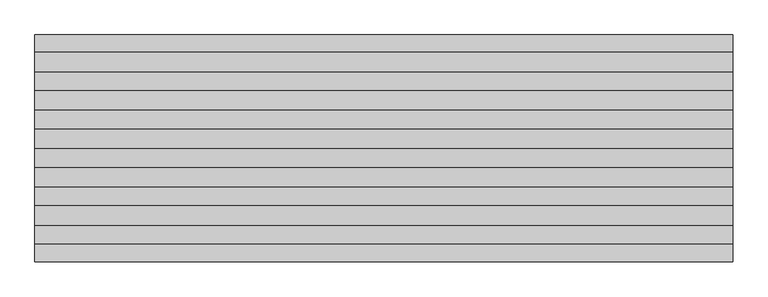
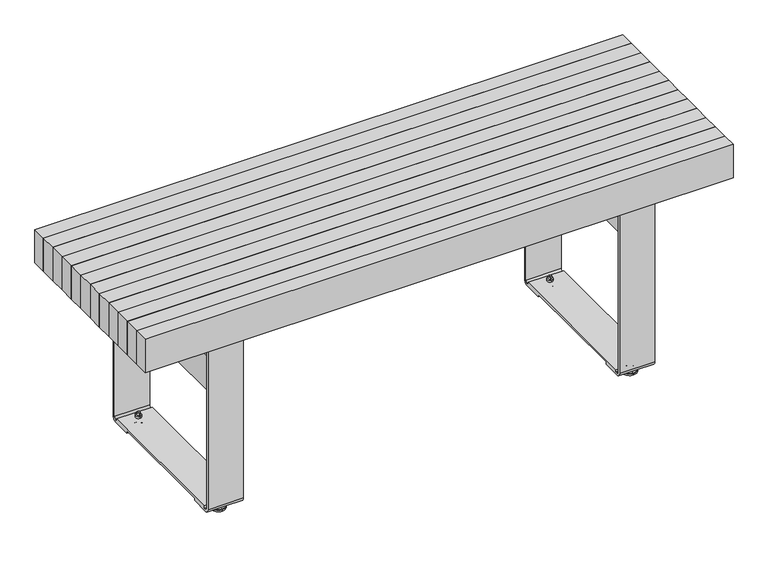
"""IFC4 building model written with IfcOpenShell, lengths in millimetres: furniture geometry, Roros Produkter - Femunden - Table - 34370 : Roros Produkter - Femunden - Table - 34370."""

import ifcopenshell
import ifcopenshell.guid

model = None  # the IFC model being written
_history = None  # IfcOwnerHistory: only IFC2X3 demands one
_inside = {}  # id of a spatial element -> (the spatial element, [elements in it])
_under = {}  # id of a project, library or spatial element -> (it, [spatial elements below it])
_declared = {}  # id of a project -> (the project, [libraries it declares])
_typed = {}  # id of a type object -> (the type object, [elements of that type])
_made_of = {}  # id of a material, layer set ... -> (it, [elements and type objects made of it])


def new_model(schema):
    """Start an empty IFC model of exactly this schema.

    Asked for "IFC4X3", IfcOpenShell would pick the latest addendum, in which some entities
    have other attributes; the version numbers below select the first issue.
    IFC2X3 requires an IfcOwnerHistory on every rooted entity: one is made here for all.
    """
    global model, _history
    if schema == "IFC4X3":
        model = ifcopenshell.file(schema_version=(4, 3, 0, 0))
    else:
        model = ifcopenshell.file(schema=schema)
    _inside.clear()
    _under.clear()
    _declared.clear()
    _typed.clear()
    _made_of.clear()
    _history = None
    if model.schema == "IFC2X3":
        org = make("IfcOrganization", Name="unknown")
        user = make(
            "IfcPersonAndOrganization",
            ThePerson=make("IfcPerson", FamilyName="unknown"),
            TheOrganization=org,
        )
        app = make(
            "IfcApplication",
            ApplicationDeveloper=org,
            Version="unknown",
            ApplicationFullName="unknown",
            ApplicationIdentifier="unknown",
        )
        _history = make(
            "IfcOwnerHistory",
            OwningUser=user,
            OwningApplication=app,
            ChangeAction="ADDED",
            CreationDate=0,
        )
    return model


def make(cls, **values):
    """One entity of the class cls with the attributes given. An attribute that is None is left unset."""
    return model.create_entity(
        cls, **{name: value for name, value in values.items() if value is not None}
    )


def rooted(cls, **values):
    """An entity with a GlobalId (a new one), such as an element, a storey or a relation."""
    return make(cls, GlobalId=ifcopenshell.guid.new(), OwnerHistory=_history, **values)


def si_unit(unit_type, name, prefix=None):
    """IfcSIUnit, for example si_unit("LENGTHUNIT", "METRE", prefix="MILLI")."""
    return make("IfcSIUnit", UnitType=unit_type, Prefix=prefix, Name=name)


def assignment(units):
    """IfcUnitAssignment: the units of a project."""
    return None if units is None else make("IfcUnitAssignment", Units=units)


def point(xyz):
    """IfcCartesianPoint."""
    return None if xyz is None else make("IfcCartesianPoint", Coordinates=xyz)


def direction(xyz):
    """IfcDirection."""
    return None if xyz is None else make("IfcDirection", DirectionRatios=xyz)


def frame(location, z_axis=None, x_axis=None):
    """IfcAxis2Placement3D, a coordinate frame: its origin and axes. An axis left out is left unset."""
    return make(
        "IfcAxis2Placement3D",
        Location=point(location),
        Axis=direction(z_axis),
        RefDirection=direction(x_axis),
    )


def frame_2d(location, x_axis=None):
    """IfcAxis2Placement2D, a coordinate frame in the plane: its origin and x axis."""
    return make(
        "IfcAxis2Placement2D", Location=point(location), RefDirection=direction(x_axis)
    )


def origin():
    """The frame at (0, 0, 0) with its axes left unset."""
    return frame((0.0, 0.0, 0.0))


def place(relative_to, where):
    """IfcLocalPlacement: puts the frame where relative to a parent placement (None: the world)."""
    return make(
        "IfcLocalPlacement", PlacementRelTo=relative_to, RelativePlacement=where
    )


def context(
    kind, dimensions, precision=None, world=None, true_north=None, identifier=None
):
    """IfcGeometricRepresentationContext, for example the 3D "Model" context."""
    return make(
        "IfcGeometricRepresentationContext",
        ContextIdentifier=identifier,
        ContextType=kind,
        CoordinateSpaceDimension=dimensions,
        Precision=precision,
        WorldCoordinateSystem=world,
        TrueNorth=true_north,
    )


def project(units=None, contexts=None):
    """IfcProject with its units and contexts."""
    return rooted(
        "IfcProject",
        Name="project",
        RepresentationContexts=contexts,
        UnitsInContext=assignment(units),
    )


def spatial(cls, under=None, at=None, **own):
    """A site, building, storey or space (cls), placed at a placement, below another one or the project."""
    s = rooted(cls, ObjectPlacement=at, **own)
    if under is not None:
        _under.setdefault(under.id(), (under, []))[1].append(s)
    return s


def polyline(points):
    """IfcPolyline through the points."""
    return make("IfcPolyline", Points=[point(p) for p in points])


def circle_curve(where, radius):
    """IfcCircle in the frame where."""
    return make("IfcCircle", Position=where, Radius=radius)


def ellipse_curve(where, semi_axis1, semi_axis2):
    """IfcEllipse in the frame where."""
    return make(
        "IfcEllipse", Position=where, SemiAxis1=semi_axis1, SemiAxis2=semi_axis2
    )


def trimmed(basis, trim1, trim2, sense, master):
    """IfcTrimmedCurve: the piece of a basis curve between two trims."""
    return make(
        "IfcTrimmedCurve",
        BasisCurve=basis,
        Trim1=trim1,
        Trim2=trim2,
        SenseAgreement=sense,
        MasterRepresentation=master,
    )


def segment(curve, same_sense, transition):
    """IfcCompositeCurveSegment."""
    return make(
        "IfcCompositeCurveSegment",
        Transition=transition,
        SameSense=same_sense,
        ParentCurve=curve,
    )


def composite_curve(segments, self_intersect=None):
    """IfcCompositeCurve: segments joined end to end."""
    return make("IfcCompositeCurve", Segments=segments, SelfIntersect=self_intersect)


def outline(outer, holes=None, kind="AREA"):
    """IfcArbitraryClosedProfileDef: a profile drawn as a closed curve; with holes, ...WithVoids."""
    if holes is None:
        return make("IfcArbitraryClosedProfileDef", ProfileType=kind, OuterCurve=outer)
    return make(
        "IfcArbitraryProfileDefWithVoids",
        ProfileType=kind,
        OuterCurve=outer,
        InnerCurves=holes,
    )


def extrude(swept, where, along, depth):
    """IfcExtrudedAreaSolid: the profile swept, set in the frame where, extruded along a direction by depth."""
    return make(
        "IfcExtrudedAreaSolid",
        SweptArea=swept,
        Position=where,
        ExtrudedDirection=direction(along),
        Depth=depth,
    )


def shape(context_of_items, identifier, shape_type, items):
    """IfcShapeRepresentation: the items that make up one representation, for example the "Body"."""
    return make(
        "IfcShapeRepresentation",
        ContextOfItems=context_of_items,
        RepresentationIdentifier=identifier,
        RepresentationType=shape_type,
        Items=items,
    )


def source(mapping_origin, context_of_items, identifier, shape_type, items):
    """IfcRepresentationMap: a shape defined once, which mapped items show again and again."""
    return make(
        "IfcRepresentationMap",
        MappingOrigin=mapping_origin,
        MappedRepresentation=shape(context_of_items, identifier, shape_type, items),
    )


def transform(
    local_origin,
    x_axis=None,
    y_axis=None,
    z_axis=None,
    scale=None,
    scale2=None,
    scale3=None,
    uniform=True,
):
    """IfcCartesianTransformationOperator3D, or its non-uniform kind. x_axis, y_axis, z_axis: its Axis1, 2, 3."""
    if uniform:
        return make(
            "IfcCartesianTransformationOperator3D",
            Axis1=direction(x_axis),
            Axis2=direction(y_axis),
            LocalOrigin=point(local_origin),
            Scale=scale,
            Axis3=direction(z_axis),
        )
    return make(
        "IfcCartesianTransformationOperator3DnonUniform",
        Axis1=direction(x_axis),
        Axis2=direction(y_axis),
        LocalOrigin=point(local_origin),
        Scale=scale,
        Axis3=direction(z_axis),
        Scale2=scale2,
        Scale3=scale3,
    )


def mapped(mapping_source, mapping_target):
    """IfcMappedItem: shows the shape of a source again, moved by a transform."""
    return make(
        "IfcMappedItem", MappingSource=mapping_source, MappingTarget=mapping_target
    )


def made_of(thing, what):
    """Note that an element or type object is made of a material, layer set ...; save() writes the relation."""
    if what is not None:
        _made_of.setdefault(what.id(), (what, []))[1].append(thing)
    return thing


def element(
    cls,
    number,
    at=None,
    inside=None,
    cuts=None,
    type_object=None,
    material=None,
    context=None,
    identifier="Body",
    shape_type=None,
    held_by="IfcProductDefinitionShape",
    body=None,
    shapes=None,
    **own,
):
    """One element of the class cls, such as IfcWall. Its Tag is "e" and its number.

    at: its placement. inside: the storey or other place that contains it. cuts: it is an
    opening in that element (IfcRelVoidsElement). A single representation is given by context,
    identifier, shape_type and body (its items); several are given by shapes. held_by: the class
    of the entity that holds the representations. save() writes the other relations.
    """
    e = rooted(cls, Tag="e%d" % number, ObjectPlacement=at, **own)
    if body is not None:
        shapes = [shape(context, identifier, shape_type, body)]
    if shapes is not None:
        e.Representation = make(held_by, Representations=shapes)
    if inside is not None:
        _inside.setdefault(inside.id(), (inside, []))[1].append(e)
    if cuts is not None:
        rooted(
            "IfcRelVoidsElement", RelatingBuildingElement=cuts, RelatedOpeningElement=e
        )
    if type_object is not None:
        _typed.setdefault(type_object.id(), (type_object, []))[1].append(e)
    return made_of(e, material)


def aggregate(whole, parts):
    """IfcRelAggregates: a whole, such as a stair, and the parts it consists of."""
    return rooted("IfcRelAggregates", RelatingObject=whole, RelatedObjects=parts)


def save(model, path):
    """Write the relations noted so far, then the file.

    IfcRelAggregates (storeys below a building ...), IfcRelContainedInSpatialStructure (elements
    in a storey), IfcRelDefinesByType, IfcRelAssociatesMaterial and IfcRelDeclares: one each for
    every whole, place, type object, material and project.
    """
    for whole, parts in _under.values():
        aggregate(whole, parts)
    for where, things in _inside.values():
        rooted(
            "IfcRelContainedInSpatialStructure",
            RelatedElements=things,
            RelatingStructure=where,
        )
    for kind, things in _typed.values():
        rooted("IfcRelDefinesByType", RelatedObjects=things, RelatingType=kind)
    for what, things in _made_of.values():
        rooted("IfcRelAssociatesMaterial", RelatedObjects=things, RelatingMaterial=what)
    for by, libraries in _declared.values():
        rooted("IfcRelDeclares", RelatingContext=by, RelatedDefinitions=libraries)
    model.write(path)


def plane_surface(at):
    """IfcPlane: the flat surface through the origin of the frame at, square to its z axis."""
    return make("IfcPlane", Position=at)


def cylinder_surface(at, radius):
    """IfcCylindricalSurface: all points at the distance radius from the z axis of the frame at."""
    return make("IfcCylindricalSurface", Position=at, Radius=radius)


def revolved_surface(curve, axis_point, axis_direction):
    """IfcSurfaceOfRevolution: the curve turned about the line through axis_point along axis_direction."""
    return make(
        "IfcSurfaceOfRevolution",
        SweptCurve=make("IfcArbitraryOpenProfileDef", ProfileType="CURVE", Curve=curve),
        AxisPosition=make("IfcAxis1Placement", Location=point(axis_point), Axis=direction(axis_direction)),
    )


def advanced_brep(points, edges, surfaces, faces):
    """IfcAdvancedBrep: a solid bounded by faces that lie on surfaces and meet in shared edges.

    An edge is (start, end): straight between two places in points (the first is 0);
    or (start, end, curve); or (start, end, curve, False) where it runs against its curve.
    A face is (place in surfaces, loops), or (place, loops, False) where it looks against
    its surface's normal. A loop lists edges by number (the first is 1), with a minus sign
    where the edge is run from its end to its start. The first loop is the outer one.
    """
    corners = [point(p) for p in points]
    vertices = [make("IfcVertexPoint", VertexGeometry=c) for c in corners]
    made = []
    for start, end, *more in edges:
        made.append(
            make(
                "IfcEdgeCurve",
                EdgeStart=vertices[start],
                EdgeEnd=vertices[end],
                EdgeGeometry=more[0] if more else make("IfcPolyline", Points=[corners[start], corners[end]]),
                SameSense=more[1] if len(more) > 1 else True,
            )
        )
    hull = []
    for where, loops, *sense in faces:
        bounds = []
        for j, loop in enumerate(loops):
            ring = [make("IfcOrientedEdge", EdgeElement=made[abs(k) - 1], Orientation=k > 0) for k in loop]
            bounds.append(
                make(
                    "IfcFaceOuterBound" if j == 0 else "IfcFaceBound",
                    Bound=make("IfcEdgeLoop", EdgeList=ring),
                    Orientation=True,
                )
            )
        hull.append(make("IfcAdvancedFace", Bounds=bounds, FaceSurface=surfaces[where], SameSense=sense[0] if sense else True))
    return make("IfcAdvancedBrep", Outer=make("IfcClosedShell", CfsFaces=hull))


def furniture_c40fb7c0(model_context):
    return source(origin(), model_context, "Body", "SolidModel", [
        extrude(outline(composite_curve([segment(trimmed(circle_curve(frame_2d((719.85, 261.5)), 5.5), [point((725.35, 261.5))], [point((719.85, 267.0))], True, "CARTESIAN"), True, "CONTINUOUS"), segment(polyline([(719.85, 267.0), (680.35, 267.0), (680.35, 272.0), (719.85, 272.0)]), True, "CONTINUOUS"), segment(trimmed(circle_curve(frame_2d((719.85, 261.5)), 10.5), [point((719.85, 272.0))], [point((730.35, 261.5))], False, "CARTESIAN"), True, "CONTINUOUS"), segment(polyline([(730.35, 261.5), (730.35, -260.5)]), True, "CONTINUOUS"), segment(trimmed(circle_curve(frame_2d((719.85, -260.5)), 10.5), [point((730.35, -260.5))], [point((719.85, -271.0))], False, "CARTESIAN"), True, "CONTINUOUS"), segment(polyline([(719.85, -271.0), (680.35, -271.0), (680.35, -266.0), (719.85, -266.0)]), True, "CONTINUOUS"), segment(trimmed(circle_curve(frame_2d((719.85, -260.5)), 5.5), [point((719.85, -266.0))], [point((725.35, -260.5))], True, "CARTESIAN"), True, "CONTINUOUS"), segment(polyline([(725.35, -260.5), (725.35, 261.5)]), True, "CONTINUOUS")], self_intersect=False)), frame((0.0, 0.0, 424.1), z_axis=(0.0, 0.0, 1.0), x_axis=(1.0, 0.0, 0.0)), (0.0, 0.0, 1.0), 120.0),
        extrude(outline(composite_curve([segment(polyline([(272.0, 744.2), (280.0, 744.2), (280.0, 40.2)]), True, "CONTINUOUS"), segment(trimmed(circle_curve(frame_2d((264.0, 40.2)), 16.0), [point((280.0, 40.2))], [point((264.0, 24.2))], False, "CARTESIAN"), True, "CONTINUOUS"), segment(polyline([(264.0, 24.2), (200.0, 24.2), (200.0, 32.2), (-200.0, 32.2), (-200.0, 24.2), (-264.0, 24.2)]), True, "CONTINUOUS"), segment(trimmed(circle_curve(frame_2d((-264.0, 40.2)), 16.0), [point((-264.0, 24.2))], [point((-280.0, 40.2))], False, "CARTESIAN"), True, "CONTINUOUS"), segment(polyline([(-280.0, 40.2), (-280.0, 744.2), (-272.0, 744.2), (-272.0, 40.2)]), True, "CONTINUOUS"), segment(trimmed(circle_curve(frame_2d((-264.0, 40.2)), 8.0), [point((-272.0, 40.2))], [point((-264.0, 32.2))], True, "CARTESIAN"), True, "CONTINUOUS"), segment(polyline([(-264.0, 32.2), (-258.5, 32.2), (-258.5, 40.2), (258.5, 40.2), (258.5, 32.2), (264.0, 32.2)]), True, "CONTINUOUS"), segment(trimmed(circle_curve(frame_2d((264.0, 40.2)), 8.0), [point((264.0, 32.2))], [point((272.0, 40.2))], True, "CARTESIAN"), True, "CONTINUOUS"), segment(polyline([(272.0, 40.2), (272.0, 744.2)]), True, "CONTINUOUS")], self_intersect=False)), frame((640.0, 0.0, 0.0), z_axis=(1.0, 0.0, 0.0), x_axis=(0.0, 1.0, 0.0)), (0.0, 0.0, 1.0), 120.0),
        advanced_brep(
        [(700.0, -230.0, 48.0), (700.0, -240.0, 48.0), (700.0, -244.5853719, 48.0), (700.0, -225.4146281, 48.0), (700.0, -230.0, 56.5), (700.0, -240.0, 56.5), (700.0, -235.0, 56.5), (700.0, -211.5, 0.0), (700.0, -258.5, 0.0), (700.0, -235.0, 0.0), (700.0, -211.5, 4.3619998), (700.0, -258.5, 4.3619998), (700.0, -212.4699239, 6.0763344), (700.0, -257.5300761, 6.0763344), (700.0, -219.0, 10.0), (700.0, -251.0, 10.0), (700.0, -226.1774181, 10.0), (700.0, -243.8225819, 10.0), (700.0, -226.1774181, 16.5), (700.0, -243.8225819, 16.5), (700.0, -225.1865973, 24.2), (700.0, -244.8134027, 24.2), (700.0, -244.8134027, 16.5), (700.0, -225.1865973, 16.5), (700.0, -230.0, 24.2), (700.0, -240.0, 24.2), (700.0, -230.0, 40.2), (700.0, -240.0, 40.2), (700.0, -225.4146281, 40.2), (700.0, -244.5853719, 40.2)],
        [
            (0, 1, circle_curve(frame((700.0, -235.0, 48.0), z_axis=(0.0, 0.0, -1.0), x_axis=(0.0, -1.0, 0.0)), 5.0)),
            (1, 2),
            (2, 3, circle_curve(frame((700.0, -235.0, 48.0), z_axis=(0.0, 0.0, 1.0), x_axis=(0.0, -1.0, 0.0)), 9.5853719)),
            (3, 0),
            (1, 0, circle_curve(frame((700.0, -235.0, 48.0), z_axis=(0.0, 0.0, -1.0), x_axis=(0.0, -1.0, 0.0)), 5.0)),
            (3, 2, circle_curve(frame((700.0, -235.0, 48.0), z_axis=(0.0, 0.0, 1.0), x_axis=(0.0, -1.0, 0.0)), 9.5853719)),
            (4, 5, circle_curve(frame((700.0, -235.0, 56.5), z_axis=(0.0, 0.0, -1.0), x_axis=(0.0, -1.0, 0.0)), 5.0)),
            (5, 1),
            (0, 4),
            (5, 4, circle_curve(frame((700.0, -235.0, 56.5), z_axis=(0.0, 0.0, -1.0), x_axis=(0.0, -1.0, 0.0)), 5.0)),
            (6, 5),
            (4, 6),
            (7, 8, circle_curve(frame((700.0, -235.0, 0.0), z_axis=(0.0, 0.0, -1.0), x_axis=(0.0, -1.0, 0.0)), 23.5)),
            (8, 9),
            (9, 7),
            (8, 7, circle_curve(frame((700.0, -235.0, 0.0), z_axis=(0.0, 0.0, -1.0), x_axis=(0.0, -1.0, 0.0)), 23.5)),
            (10, 11, circle_curve(frame((700.0, -235.0, 4.3619998), z_axis=(0.0, 0.0, -1.0), x_axis=(0.0, -1.0, 0.0)), 23.5)),
            (11, 8),
            (7, 10),
            (11, 10, circle_curve(frame((700.0, -235.0, 4.3619998), z_axis=(0.0, 0.0, -1.0), x_axis=(0.0, -1.0, 0.0)), 23.5)),
            (12, 13, circle_curve(frame((700.0, -235.0, 6.0763344), z_axis=(0.0, 0.0, -1.0), x_axis=(0.0, -1.0, 0.0)), 22.5300761)),
            (13, 11, circle_curve(frame((700.0, -256.5, 4.3619998), z_axis=(1.0, 0.0, 0.0), x_axis=(0.0, 1.0, 0.0)), 2.0)),
            (10, 12, circle_curve(frame((700.0, -213.5, 4.3619998), z_axis=(1.0, 0.0, 0.0), x_axis=(0.0, -1.0, 0.0)), 2.0)),
            (13, 12, circle_curve(frame((700.0, -235.0, 6.0763344), z_axis=(0.0, 0.0, -1.0), x_axis=(0.0, -1.0, 0.0)), 22.5300761)),
            (14, 15, circle_curve(frame((700.0, -235.0, 10.0), z_axis=(0.0, 0.0, -1.0), x_axis=(0.0, -1.0, 0.0)), 16.0)),
            (15, 13),
            (12, 14),
            (15, 14, circle_curve(frame((700.0, -235.0, 10.0), z_axis=(0.0, 0.0, -1.0), x_axis=(0.0, -1.0, 0.0)), 16.0)),
            (16, 17, circle_curve(frame((700.0, -235.0, 10.0), z_axis=(0.0, 0.0, -1.0), x_axis=(0.0, -1.0, 0.0)), 8.8225819)),
            (17, 15),
            (14, 16),
            (17, 16, circle_curve(frame((700.0, -235.0, 10.0), z_axis=(0.0, 0.0, -1.0), x_axis=(0.0, -1.0, 0.0)), 8.8225819)),
            (18, 19, circle_curve(frame((700.0, -235.0, 16.5), z_axis=(0.0, 0.0, -1.0), x_axis=(0.0, -1.0, 0.0)), 8.8225819)),
            (19, 17),
            (16, 18),
            (19, 18, circle_curve(frame((700.0, -235.0, 16.5), z_axis=(0.0, 0.0, -1.0), x_axis=(0.0, -1.0, 0.0)), 8.8225819)),
            (20, 21, circle_curve(frame((700.0, -235.0, 24.2), z_axis=(0.0, 0.0, -1.0), x_axis=(0.0, -1.0, 0.0)), 9.8134027)),
            (21, 22),
            (22, 23, circle_curve(frame((700.0, -235.0, 16.5), z_axis=(0.0, 0.0, 1.0), x_axis=(0.0, -1.0, 0.0)), 9.8134027)),
            (23, 20),
            (21, 20, circle_curve(frame((700.0, -235.0, 24.2), z_axis=(0.0, 0.0, -1.0), x_axis=(0.0, -1.0, 0.0)), 9.8134027)),
            (23, 22, circle_curve(frame((700.0, -235.0, 16.5), z_axis=(0.0, 0.0, 1.0), x_axis=(0.0, -1.0, 0.0)), 9.8134027)),
            (24, 25, circle_curve(frame((700.0, -235.0, 24.2), z_axis=(0.0, 0.0, -1.0), x_axis=(0.0, -1.0, 0.0)), 5.0)),
            (25, 21),
            (20, 24),
            (25, 24, circle_curve(frame((700.0, -235.0, 24.2), z_axis=(0.0, 0.0, -1.0), x_axis=(0.0, -1.0, 0.0)), 5.0)),
            (26, 27, circle_curve(frame((700.0, -235.0, 40.2), z_axis=(0.0, 0.0, -1.0), x_axis=(0.0, -1.0, 0.0)), 5.0)),
            (27, 25),
            (24, 26),
            (27, 26, circle_curve(frame((700.0, -235.0, 40.2), z_axis=(0.0, 0.0, -1.0), x_axis=(0.0, -1.0, 0.0)), 5.0)),
            (28, 29, circle_curve(frame((700.0, -235.0, 40.2), z_axis=(0.0, 0.0, -1.0), x_axis=(0.0, -1.0, 0.0)), 9.5853719)),
            (29, 27),
            (26, 28),
            (29, 28, circle_curve(frame((700.0, -235.0, 40.2), z_axis=(0.0, 0.0, -1.0), x_axis=(0.0, -1.0, 0.0)), 9.5853719)),
            (2, 29),
            (28, 3),
            (22, 19),
            (18, 23),
        ],
        [
            plane_surface(frame((700.0, -235.0, 48.0), z_axis=(0.0, 0.0, 1.0), x_axis=(0.0, -1.0, 0.0))),
            cylinder_surface(frame((700.0, -235.0, 48.0), z_axis=(0.0, 0.0, 1.0), x_axis=(0.0, -1.0, 0.0)), 5.0),
            plane_surface(frame((700.0, -235.0, 56.5), z_axis=(0.0, 0.0, 1.0), x_axis=(0.0, -1.0, 0.0))),
            plane_surface(frame((700.0, -235.0, 0.0), z_axis=(0.0, 0.0, -1.0), x_axis=(0.0, -1.0, 0.0))),
            cylinder_surface(frame((700.0, -235.0, 48.0), z_axis=(0.0, 0.0, 1.0), x_axis=(0.0, -1.0, 0.0)), 23.5),
            revolved_surface(trimmed(ellipse_curve(frame((700.0, -256.5, 4.3619998), z_axis=(-1.0, 0.0, 0.0), x_axis=(0.0, 1.0, 0.0)), 2.0, 2.0), [point((700.0, -258.5, 4.3619998))], [point((700.0, -257.5300761, 6.0763344))], True, "CARTESIAN"), (700.0, -235.0, 48.0), (0.0, 0.0, 1.0)),
            revolved_surface(polyline([(700.0, -257.5300761, 6.0763344), (700.0, -251.0, 10.0)]), (700.0, -235.0, 48.0), (0.0, 0.0, 1.0)),
            plane_surface(frame((700.0, -235.0, 10.0), z_axis=(0.0, 0.0, 1.0), x_axis=(0.0, -1.0, 0.0))),
            cylinder_surface(frame((700.0, -235.0, 48.0), z_axis=(0.0, 0.0, 1.0), x_axis=(0.0, -1.0, 0.0)), 8.8225819),
            cylinder_surface(frame((700.0, -235.0, 48.0), z_axis=(0.0, 0.0, 1.0), x_axis=(0.0, -1.0, 0.0)), 9.8134027),
            plane_surface(frame((700.0, -235.0, 24.2), z_axis=(0.0, 0.0, 1.0), x_axis=(0.0, -1.0, 0.0))),
            plane_surface(frame((700.0, -235.0, 40.2), z_axis=(0.0, 0.0, -1.0), x_axis=(0.0, -1.0, 0.0))),
            cylinder_surface(frame((700.0, -235.0, 48.0), z_axis=(0.0, 0.0, 1.0), x_axis=(0.0, -1.0, 0.0)), 9.5853719),
            plane_surface(frame((700.0, -235.0, 16.5), z_axis=(0.0, 0.0, -1.0), x_axis=(0.0, -1.0, 0.0))),
        ],
        [
            (0, [[1, 2, 3, 4]]),
            (0, [[5, -4, 6, -2]]),
            (1, [[7, 8, -1, 9]]),
            (1, [[10, -9, -5, -8]]),
            (2, [[11, -7, 12]]),
            (2, [[-12, -10, -11]]),
            (3, [[13, 14, 15]]),
            (3, [[16, -15, -14]]),
            (4, [[17, 18, -13, 19]]),
            (4, [[20, -19, -16, -18]]),
            (5, [[21, 22, -17, 23]]),
            (5, [[24, -23, -20, -22]]),
            (6, [[25, 26, -21, 27]]),
            (6, [[28, -27, -24, -26]]),
            (7, [[29, 30, -25, 31]]),
            (7, [[32, -31, -28, -30]]),
            (8, [[33, 34, -29, 35]]),
            (8, [[36, -35, -32, -34]]),
            (9, [[37, 38, 39, 40]]),
            (9, [[41, -40, 42, -38]]),
            (10, [[43, 44, -37, 45]]),
            (10, [[46, -45, -41, -44]]),
            (1, [[47, 48, -43, 49]]),
            (1, [[50, -49, -46, -48]]),
            (11, [[51, 52, -47, 53]]),
            (11, [[54, -53, -50, -52]]),
            (12, [[-3, 55, -51, 56]]),
            (12, [[-6, -56, -54, -55]]),
            (13, [[-39, 57, -33, 58]]),
            (13, [[-42, -58, -36, -57]]),
        ],
    ),
        advanced_brep(
        [(700.0, 225.4146281, 48.0), (700.0, 244.5853719, 48.0), (700.0, 240.0, 48.0), (700.0, 230.0, 48.0), (700.0, 240.0, 56.5), (700.0, 230.0, 56.5), (700.0, 235.0, 56.5), (700.0, 235.0, 0.0), (700.0, 258.5, 0.0), (700.0, 211.5, 0.0), (700.0, 258.5, 4.3619998), (700.0, 211.5, 4.3619998), (700.0, 257.5300761, 6.0763344), (700.0, 212.4699239, 6.0763344), (700.0, 251.0, 10.0), (700.0, 219.0, 10.0), (700.0, 243.8225819, 10.0), (700.0, 226.1774181, 10.0), (700.0, 243.8225819, 16.5), (700.0, 226.1774181, 16.5), (700.0, 225.1865973, 16.5), (700.0, 244.8134027, 16.5), (700.0, 244.8134027, 24.2), (700.0, 225.1865973, 24.2), (700.0, 240.0, 24.2), (700.0, 230.0, 24.2), (700.0, 240.0, 40.2), (700.0, 230.0, 40.2), (700.0, 244.5853719, 40.2), (700.0, 225.4146281, 40.2)],
        [
            (0, 1, circle_curve(frame((700.0, 235.0, 48.0), z_axis=(0.0, 0.0, 1.0), x_axis=(0.0, 1.0, 0.0)), 9.5853719)),
            (1, 2),
            (2, 3, circle_curve(frame((700.0, 235.0, 48.0), z_axis=(0.0, 0.0, -1.0), x_axis=(0.0, 1.0, 0.0)), 5.0)),
            (3, 0),
            (1, 0, circle_curve(frame((700.0, 235.0, 48.0), z_axis=(0.0, 0.0, 1.0), x_axis=(0.0, 1.0, 0.0)), 9.5853719)),
            (3, 2, circle_curve(frame((700.0, 235.0, 48.0), z_axis=(0.0, 0.0, -1.0), x_axis=(0.0, 1.0, 0.0)), 5.0)),
            (2, 4),
            (4, 5, circle_curve(frame((700.0, 235.0, 56.5), z_axis=(0.0, 0.0, -1.0), x_axis=(0.0, 1.0, 0.0)), 5.0)),
            (5, 3),
            (5, 4, circle_curve(frame((700.0, 235.0, 56.5), z_axis=(0.0, 0.0, -1.0), x_axis=(0.0, 1.0, 0.0)), 5.0)),
            (4, 6),
            (6, 5),
            (7, 8),
            (8, 9, circle_curve(frame((700.0, 235.0, 0.0), z_axis=(0.0, 0.0, -1.0), x_axis=(0.0, 1.0, 0.0)), 23.5)),
            (9, 7),
            (9, 8, circle_curve(frame((700.0, 235.0, 0.0), z_axis=(0.0, 0.0, -1.0), x_axis=(0.0, 1.0, 0.0)), 23.5)),
            (8, 10),
            (10, 11, circle_curve(frame((700.0, 235.0, 4.3619998), z_axis=(0.0, 0.0, -1.0), x_axis=(0.0, 1.0, 0.0)), 23.5)),
            (11, 9),
            (11, 10, circle_curve(frame((700.0, 235.0, 4.3619998), z_axis=(0.0, 0.0, -1.0), x_axis=(0.0, 1.0, 0.0)), 23.5)),
            (10, 12, circle_curve(frame((700.0, 256.5, 4.3619998), z_axis=(1.0, 0.0, 0.0), x_axis=(0.0, -1.0, 0.0)), 2.0)),
            (12, 13, circle_curve(frame((700.0, 235.0, 6.0763344), z_axis=(0.0, 0.0, -1.0), x_axis=(0.0, 1.0, 0.0)), 22.5300761)),
            (13, 11, circle_curve(frame((700.0, 213.5, 4.3619998), z_axis=(1.0, 0.0, 0.0), x_axis=(0.0, 1.0, 0.0)), 2.0)),
            (13, 12, circle_curve(frame((700.0, 235.0, 6.0763344), z_axis=(0.0, 0.0, -1.0), x_axis=(0.0, 1.0, 0.0)), 22.5300761)),
            (12, 14),
            (14, 15, circle_curve(frame((700.0, 235.0, 10.0), z_axis=(0.0, 0.0, -1.0), x_axis=(0.0, 1.0, 0.0)), 16.0)),
            (15, 13),
            (15, 14, circle_curve(frame((700.0, 235.0, 10.0), z_axis=(0.0, 0.0, -1.0), x_axis=(0.0, 1.0, 0.0)), 16.0)),
            (14, 16),
            (16, 17, circle_curve(frame((700.0, 235.0, 10.0), z_axis=(0.0, 0.0, -1.0), x_axis=(0.0, 1.0, 0.0)), 8.8225819)),
            (17, 15),
            (17, 16, circle_curve(frame((700.0, 235.0, 10.0), z_axis=(0.0, 0.0, -1.0), x_axis=(0.0, 1.0, 0.0)), 8.8225819)),
            (16, 18),
            (18, 19, circle_curve(frame((700.0, 235.0, 16.5), z_axis=(0.0, 0.0, -1.0), x_axis=(0.0, 1.0, 0.0)), 8.8225819)),
            (19, 17),
            (19, 18, circle_curve(frame((700.0, 235.0, 16.5), z_axis=(0.0, 0.0, -1.0), x_axis=(0.0, 1.0, 0.0)), 8.8225819)),
            (20, 21, circle_curve(frame((700.0, 235.0, 16.5), z_axis=(0.0, 0.0, 1.0), x_axis=(0.0, 1.0, 0.0)), 9.8134027)),
            (21, 22),
            (22, 23, circle_curve(frame((700.0, 235.0, 24.2), z_axis=(0.0, 0.0, -1.0), x_axis=(0.0, 1.0, 0.0)), 9.8134027)),
            (23, 20),
            (21, 20, circle_curve(frame((700.0, 235.0, 16.5), z_axis=(0.0, 0.0, 1.0), x_axis=(0.0, 1.0, 0.0)), 9.8134027)),
            (23, 22, circle_curve(frame((700.0, 235.0, 24.2), z_axis=(0.0, 0.0, -1.0), x_axis=(0.0, 1.0, 0.0)), 9.8134027)),
            (22, 24),
            (24, 25, circle_curve(frame((700.0, 235.0, 24.2), z_axis=(0.0, 0.0, -1.0), x_axis=(0.0, 1.0, 0.0)), 5.0)),
            (25, 23),
            (25, 24, circle_curve(frame((700.0, 235.0, 24.2), z_axis=(0.0, 0.0, -1.0), x_axis=(0.0, 1.0, 0.0)), 5.0)),
            (24, 26),
            (26, 27, circle_curve(frame((700.0, 235.0, 40.2), z_axis=(0.0, 0.0, -1.0), x_axis=(0.0, 1.0, 0.0)), 5.0)),
            (27, 25),
            (27, 26, circle_curve(frame((700.0, 235.0, 40.2), z_axis=(0.0, 0.0, -1.0), x_axis=(0.0, 1.0, 0.0)), 5.0)),
            (26, 28),
            (28, 29, circle_curve(frame((700.0, 235.0, 40.2), z_axis=(0.0, 0.0, -1.0), x_axis=(0.0, 1.0, 0.0)), 9.5853719)),
            (29, 27),
            (29, 28, circle_curve(frame((700.0, 235.0, 40.2), z_axis=(0.0, 0.0, -1.0), x_axis=(0.0, 1.0, 0.0)), 9.5853719)),
            (28, 1),
            (0, 29),
            (18, 21),
            (20, 19),
        ],
        [
            plane_surface(frame((700.0, 235.0, 48.0), z_axis=(0.0, 0.0, 1.0), x_axis=(0.0, 1.0, 0.0))),
            cylinder_surface(frame((700.0, 235.0, 48.0), z_axis=(0.0, 0.0, -1.0), x_axis=(0.0, 1.0, 0.0)), 5.0),
            plane_surface(frame((700.0, 235.0, 56.5), z_axis=(0.0, 0.0, 1.0), x_axis=(0.0, 1.0, 0.0))),
            plane_surface(frame((700.0, 235.0, 0.0), z_axis=(0.0, 0.0, -1.0), x_axis=(0.0, 1.0, 0.0))),
            cylinder_surface(frame((700.0, 235.0, 48.0), z_axis=(0.0, 0.0, -1.0), x_axis=(0.0, 1.0, 0.0)), 23.5),
            revolved_surface(trimmed(ellipse_curve(frame((700.0, 256.5, 4.3619998), z_axis=(-1.0, 0.0, 0.0), x_axis=(0.0, -1.0, 0.0)), 2.0, 2.0), [point((700.0, 257.5300761, 6.0763344))], [point((700.0, 258.5, 4.3619998))], True, "CARTESIAN"), (700.0, 235.0, 48.0), (0.0, 0.0, -1.0)),
            revolved_surface(polyline([(700.0, 251.0, 10.0), (700.0, 257.5300761, 6.0763344)]), (700.0, 235.0, 48.0), (0.0, 0.0, -1.0)),
            plane_surface(frame((700.0, 235.0, 10.0), z_axis=(0.0, 0.0, 1.0), x_axis=(0.0, 1.0, 0.0))),
            cylinder_surface(frame((700.0, 235.0, 48.0), z_axis=(0.0, 0.0, -1.0), x_axis=(0.0, 1.0, 0.0)), 8.8225819),
            cylinder_surface(frame((700.0, 235.0, 48.0), z_axis=(0.0, 0.0, -1.0), x_axis=(0.0, 1.0, 0.0)), 9.8134027),
            plane_surface(frame((700.0, 235.0, 24.2), z_axis=(0.0, 0.0, 1.0), x_axis=(0.0, 1.0, 0.0))),
            plane_surface(frame((700.0, 235.0, 40.2), z_axis=(0.0, 0.0, -1.0), x_axis=(0.0, 1.0, 0.0))),
            cylinder_surface(frame((700.0, 235.0, 48.0), z_axis=(0.0, 0.0, -1.0), x_axis=(0.0, 1.0, 0.0)), 9.5853719),
            plane_surface(frame((700.0, 235.0, 16.5), z_axis=(0.0, 0.0, -1.0), x_axis=(0.0, 1.0, 0.0))),
        ],
        [
            (0, [[1, 2, 3, 4]]),
            (0, [[5, -4, 6, -2]]),
            (1, [[-3, 7, 8, 9]]),
            (1, [[-6, -9, 10, -7]]),
            (2, [[-8, 11, 12]]),
            (2, [[-10, -12, -11]]),
            (3, [[13, 14, 15]]),
            (3, [[-15, 16, -13]]),
            (4, [[-14, 17, 18, 19]]),
            (4, [[-16, -19, 20, -17]]),
            (5, [[-18, 21, 22, 23]]),
            (5, [[-20, -23, 24, -21]]),
            (6, [[-22, 25, 26, 27]]),
            (6, [[-24, -27, 28, -25]]),
            (7, [[-26, 29, 30, 31]]),
            (7, [[-28, -31, 32, -29]]),
            (8, [[-30, 33, 34, 35]]),
            (8, [[-32, -35, 36, -33]]),
            (9, [[37, 38, 39, 40]]),
            (9, [[41, -40, 42, -38]]),
            (10, [[-39, 43, 44, 45]]),
            (10, [[-42, -45, 46, -43]]),
            (1, [[-44, 47, 48, 49]]),
            (1, [[-46, -49, 50, -47]]),
            (11, [[-48, 51, 52, 53]]),
            (11, [[-50, -53, 54, -51]]),
            (12, [[-52, 55, -1, 56]]),
            (12, [[-54, -56, -5, -55]]),
            (13, [[-34, 57, -37, 58]]),
            (13, [[-36, -58, -41, -57]]),
        ],
    ),
        advanced_brep(
        [(-700.0, -225.4146281, 48.0), (-700.0, -244.5853719, 48.0), (-700.0, -240.0, 48.0), (-700.0, -230.0, 48.0), (-700.0, -240.0, 56.5), (-700.0, -230.0, 56.5), (-700.0, -235.0, 56.5), (-700.0, -235.0, 0.0), (-700.0, -258.5, 0.0), (-700.0, -211.5, 0.0), (-700.0, -258.5, 4.3619998), (-700.0, -211.5, 4.3619998), (-700.0, -257.5300761, 6.0763344), (-700.0, -212.4699239, 6.0763344), (-700.0, -251.0, 10.0), (-700.0, -219.0, 10.0), (-700.0, -243.8225819, 10.0), (-700.0, -226.1774181, 10.0), (-700.0, -243.8225819, 16.5), (-700.0, -226.1774181, 16.5), (-700.0, -225.1865973, 16.5), (-700.0, -244.8134027, 16.5), (-700.0, -244.8134027, 24.2), (-700.0, -225.1865973, 24.2), (-700.0, -240.0, 24.2), (-700.0, -230.0, 24.2), (-700.0, -240.0, 40.2), (-700.0, -230.0, 40.2), (-700.0, -244.5853719, 40.2), (-700.0, -225.4146281, 40.2)],
        [
            (0, 1, circle_curve(frame((-700.0, -235.0, 48.0), z_axis=(0.0, 0.0, 1.0), x_axis=(0.0, -1.0, 0.0)), 9.5853719)),
            (1, 2),
            (2, 3, circle_curve(frame((-700.0, -235.0, 48.0), z_axis=(0.0, 0.0, -1.0), x_axis=(0.0, -1.0, 0.0)), 5.0)),
            (3, 0),
            (1, 0, circle_curve(frame((-700.0, -235.0, 48.0), z_axis=(0.0, 0.0, 1.0), x_axis=(0.0, -1.0, 0.0)), 9.5853719)),
            (3, 2, circle_curve(frame((-700.0, -235.0, 48.0), z_axis=(0.0, 0.0, -1.0), x_axis=(0.0, -1.0, 0.0)), 5.0)),
            (2, 4),
            (4, 5, circle_curve(frame((-700.0, -235.0, 56.5), z_axis=(0.0, 0.0, -1.0), x_axis=(0.0, -1.0, 0.0)), 5.0)),
            (5, 3),
            (5, 4, circle_curve(frame((-700.0, -235.0, 56.5), z_axis=(0.0, 0.0, -1.0), x_axis=(0.0, -1.0, 0.0)), 5.0)),
            (4, 6),
            (6, 5),
            (7, 8),
            (8, 9, circle_curve(frame((-700.0, -235.0, 0.0), z_axis=(0.0, 0.0, -1.0), x_axis=(0.0, -1.0, 0.0)), 23.5)),
            (9, 7),
            (9, 8, circle_curve(frame((-700.0, -235.0, 0.0), z_axis=(0.0, 0.0, -1.0), x_axis=(0.0, -1.0, 0.0)), 23.5)),
            (8, 10),
            (10, 11, circle_curve(frame((-700.0, -235.0, 4.3619998), z_axis=(0.0, 0.0, -1.0), x_axis=(0.0, -1.0, 0.0)), 23.5)),
            (11, 9),
            (11, 10, circle_curve(frame((-700.0, -235.0, 4.3619998), z_axis=(0.0, 0.0, -1.0), x_axis=(0.0, -1.0, 0.0)), 23.5)),
            (10, 12, circle_curve(frame((-700.0, -256.5, 4.3619998), z_axis=(-1.0, 0.0, 0.0), x_axis=(0.0, 1.0, 0.0)), 2.0)),
            (12, 13, circle_curve(frame((-700.0, -235.0, 6.0763344), z_axis=(0.0, 0.0, -1.0), x_axis=(0.0, -1.0, 0.0)), 22.5300761)),
            (13, 11, circle_curve(frame((-700.0, -213.5, 4.3619998), z_axis=(-1.0, 0.0, 0.0), x_axis=(0.0, -1.0, 0.0)), 2.0)),
            (13, 12, circle_curve(frame((-700.0, -235.0, 6.0763344), z_axis=(0.0, 0.0, -1.0), x_axis=(0.0, -1.0, 0.0)), 22.5300761)),
            (12, 14),
            (14, 15, circle_curve(frame((-700.0, -235.0, 10.0), z_axis=(0.0, 0.0, -1.0), x_axis=(0.0, -1.0, 0.0)), 16.0)),
            (15, 13),
            (15, 14, circle_curve(frame((-700.0, -235.0, 10.0), z_axis=(0.0, 0.0, -1.0), x_axis=(0.0, -1.0, 0.0)), 16.0)),
            (14, 16),
            (16, 17, circle_curve(frame((-700.0, -235.0, 10.0), z_axis=(0.0, 0.0, -1.0), x_axis=(0.0, -1.0, 0.0)), 8.8225819)),
            (17, 15),
            (17, 16, circle_curve(frame((-700.0, -235.0, 10.0), z_axis=(0.0, 0.0, -1.0), x_axis=(0.0, -1.0, 0.0)), 8.8225819)),
            (16, 18),
            (18, 19, circle_curve(frame((-700.0, -235.0, 16.5), z_axis=(0.0, 0.0, -1.0), x_axis=(0.0, -1.0, 0.0)), 8.8225819)),
            (19, 17),
            (19, 18, circle_curve(frame((-700.0, -235.0, 16.5), z_axis=(0.0, 0.0, -1.0), x_axis=(0.0, -1.0, 0.0)), 8.8225819)),
            (20, 21, circle_curve(frame((-700.0, -235.0, 16.5), z_axis=(0.0, 0.0, 1.0), x_axis=(0.0, -1.0, 0.0)), 9.8134027)),
            (21, 22),
            (22, 23, circle_curve(frame((-700.0, -235.0, 24.2), z_axis=(0.0, 0.0, -1.0), x_axis=(0.0, -1.0, 0.0)), 9.8134027)),
            (23, 20),
            (21, 20, circle_curve(frame((-700.0, -235.0, 16.5), z_axis=(0.0, 0.0, 1.0), x_axis=(0.0, -1.0, 0.0)), 9.8134027)),
            (23, 22, circle_curve(frame((-700.0, -235.0, 24.2), z_axis=(0.0, 0.0, -1.0), x_axis=(0.0, -1.0, 0.0)), 9.8134027)),
            (22, 24),
            (24, 25, circle_curve(frame((-700.0, -235.0, 24.2), z_axis=(0.0, 0.0, -1.0), x_axis=(0.0, -1.0, 0.0)), 5.0)),
            (25, 23),
            (25, 24, circle_curve(frame((-700.0, -235.0, 24.2), z_axis=(0.0, 0.0, -1.0), x_axis=(0.0, -1.0, 0.0)), 5.0)),
            (24, 26),
            (26, 27, circle_curve(frame((-700.0, -235.0, 40.2), z_axis=(0.0, 0.0, -1.0), x_axis=(0.0, -1.0, 0.0)), 5.0)),
            (27, 25),
            (27, 26, circle_curve(frame((-700.0, -235.0, 40.2), z_axis=(0.0, 0.0, -1.0), x_axis=(0.0, -1.0, 0.0)), 5.0)),
            (26, 28),
            (28, 29, circle_curve(frame((-700.0, -235.0, 40.2), z_axis=(0.0, 0.0, -1.0), x_axis=(0.0, -1.0, 0.0)), 9.5853719)),
            (29, 27),
            (29, 28, circle_curve(frame((-700.0, -235.0, 40.2), z_axis=(0.0, 0.0, -1.0), x_axis=(0.0, -1.0, 0.0)), 9.5853719)),
            (28, 1),
            (0, 29),
            (18, 21),
            (20, 19),
        ],
        [
            plane_surface(frame((-700.0, -235.0, 48.0), z_axis=(0.0, 0.0, 1.0), x_axis=(0.0, -1.0, 0.0))),
            cylinder_surface(frame((-700.0, -235.0, 48.0), z_axis=(0.0, 0.0, -1.0), x_axis=(0.0, -1.0, 0.0)), 5.0),
            plane_surface(frame((-700.0, -235.0, 56.5), z_axis=(0.0, 0.0, 1.0), x_axis=(0.0, -1.0, 0.0))),
            plane_surface(frame((-700.0, -235.0, 0.0), z_axis=(0.0, 0.0, -1.0), x_axis=(0.0, -1.0, 0.0))),
            cylinder_surface(frame((-700.0, -235.0, 48.0), z_axis=(0.0, 0.0, -1.0), x_axis=(0.0, -1.0, 0.0)), 23.5),
            revolved_surface(trimmed(ellipse_curve(frame((-700.0, -256.5, 4.3619998), z_axis=(1.0, 0.0, 0.0), x_axis=(0.0, 1.0, 0.0)), 2.0, 2.0), [point((-700.0, -257.5300761, 6.0763344))], [point((-700.0, -258.5, 4.3619998))], True, "CARTESIAN"), (-700.0, -235.0, 48.0), (0.0, 0.0, -1.0)),
            revolved_surface(polyline([(-700.0, -251.0, 10.0), (-700.0, -257.5300761, 6.0763344)]), (-700.0, -235.0, 48.0), (0.0, 0.0, -1.0)),
            plane_surface(frame((-700.0, -235.0, 10.0), z_axis=(0.0, 0.0, 1.0), x_axis=(0.0, -1.0, 0.0))),
            cylinder_surface(frame((-700.0, -235.0, 48.0), z_axis=(0.0, 0.0, -1.0), x_axis=(0.0, -1.0, 0.0)), 8.8225819),
            cylinder_surface(frame((-700.0, -235.0, 48.0), z_axis=(0.0, 0.0, -1.0), x_axis=(0.0, -1.0, 0.0)), 9.8134027),
            plane_surface(frame((-700.0, -235.0, 24.2), z_axis=(0.0, 0.0, 1.0), x_axis=(0.0, -1.0, 0.0))),
            plane_surface(frame((-700.0, -235.0, 40.2), z_axis=(0.0, 0.0, -1.0), x_axis=(0.0, -1.0, 0.0))),
            cylinder_surface(frame((-700.0, -235.0, 48.0), z_axis=(0.0, 0.0, -1.0), x_axis=(0.0, -1.0, 0.0)), 9.5853719),
            plane_surface(frame((-700.0, -235.0, 16.5), z_axis=(0.0, 0.0, -1.0), x_axis=(0.0, -1.0, 0.0))),
        ],
        [
            (0, [[1, 2, 3, 4]]),
            (0, [[5, -4, 6, -2]]),
            (1, [[-3, 7, 8, 9]]),
            (1, [[-6, -9, 10, -7]]),
            (2, [[-8, 11, 12]]),
            (2, [[-10, -12, -11]]),
            (3, [[13, 14, 15]]),
            (3, [[-15, 16, -13]]),
            (4, [[-14, 17, 18, 19]]),
            (4, [[-16, -19, 20, -17]]),
            (5, [[-18, 21, 22, 23]]),
            (5, [[-20, -23, 24, -21]]),
            (6, [[-22, 25, 26, 27]]),
            (6, [[-24, -27, 28, -25]]),
            (7, [[-26, 29, 30, 31]]),
            (7, [[-28, -31, 32, -29]]),
            (8, [[-30, 33, 34, 35]]),
            (8, [[-32, -35, 36, -33]]),
            (9, [[37, 38, 39, 40]]),
            (9, [[41, -40, 42, -38]]),
            (10, [[-39, 43, 44, 45]]),
            (10, [[-42, -45, 46, -43]]),
            (1, [[-44, 47, 48, 49]]),
            (1, [[-46, -49, 50, -47]]),
            (11, [[-48, 51, 52, 53]]),
            (11, [[-50, -53, 54, -51]]),
            (12, [[-52, 55, -1, 56]]),
            (12, [[-54, -56, -5, -55]]),
            (13, [[-34, 57, -37, 58]]),
            (13, [[-36, -58, -41, -57]]),
        ],
    ),
        extrude(outline(polyline([(1000.0, 165.0), (1000.0, 110.0), (-1000.0, 110.0), (-1000.0, 165.0), (1000.0, 165.0)])), frame((0.0, 0.0, 644.2), z_axis=(0.0, 0.0, 1.0), x_axis=(1.0, 0.0, 0.0)), (0.0, 0.0, 1.0), 120.0),
        extrude(outline(polyline([(1000.0, 55.0), (1000.0, 0.0), (-1000.0, 0.0), (-1000.0, 55.0), (1000.0, 55.0)])), frame((0.0, 0.0, 644.2), z_axis=(0.0, 0.0, 1.0), x_axis=(1.0, 0.0, 0.0)), (0.0, 0.0, 1.0), 120.0),
        extrude(outline(polyline([(1000.0, -55.0), (1000.0, -110.0), (-1000.0, -110.0), (-1000.0, -55.0), (1000.0, -55.0)])), frame((0.0, 0.0, 644.2), z_axis=(0.0, 0.0, 1.0), x_axis=(1.0, 0.0, 0.0)), (0.0, 0.0, 1.0), 120.0),
        extrude(outline(polyline([(1000.0, -165.0), (1000.0, -220.0), (-1000.0, -220.0), (-1000.0, -165.0), (1000.0, -165.0)])), frame((0.0, 0.0, 644.2), z_axis=(0.0, 0.0, 1.0), x_axis=(1.0, 0.0, 0.0)), (0.0, 0.0, 1.0), 120.0),
        extrude(outline(polyline([(1000.0, -275.0), (1000.0, -325.0), (-1000.0, -325.0), (-1000.0, -275.0), (1000.0, -275.0)])), frame((0.0, 0.0, 644.2), z_axis=(0.0, 0.0, 1.0), x_axis=(1.0, 0.0, 0.0)), (0.0, 0.0, 1.0), 120.0),
        extrude(outline(polyline([(1000.0, 275.0), (1000.0, 220.0), (-1000.0, 220.0), (-1000.0, 275.0), (1000.0, 275.0)])), frame((0.0, 0.0, 644.2), z_axis=(0.0, 0.0, 1.0), x_axis=(1.0, 0.0, 0.0)), (0.0, 0.0, 1.0), 120.0),
        extrude(outline(polyline([(1000.0, 220.0), (1000.0, 165.0), (-1000.0, 165.0), (-1000.0, 220.0), (1000.0, 220.0)])), frame((0.0, 0.0, 644.2), z_axis=(0.0, 0.0, 1.0), x_axis=(1.0, 0.0, 0.0)), (0.0, 0.0, 1.0), 120.0),
        extrude(outline(polyline([(1000.0, 110.0), (1000.0, 55.0), (-1000.0, 55.0), (-1000.0, 110.0), (1000.0, 110.0)])), frame((0.0, 0.0, 644.2), z_axis=(0.0, 0.0, 1.0), x_axis=(1.0, 0.0, 0.0)), (0.0, 0.0, 1.0), 120.0),
        extrude(outline(polyline([(1000.0, 0.0), (1000.0, -55.0), (-1000.0, -55.0), (-1000.0, 0.0), (1000.0, 0.0)])), frame((0.0, 0.0, 644.2), z_axis=(0.0, 0.0, 1.0), x_axis=(1.0, 0.0, 0.0)), (0.0, 0.0, 1.0), 120.0),
        extrude(outline(polyline([(1000.0, -110.0), (1000.0, -165.0), (-1000.0, -165.0), (-1000.0, -110.0), (1000.0, -110.0)])), frame((0.0, 0.0, 644.2), z_axis=(0.0, 0.0, 1.0), x_axis=(1.0, 0.0, 0.0)), (0.0, 0.0, 1.0), 120.0),
        extrude(outline(polyline([(1000.0, 325.0), (1000.0, 275.0), (-1000.0, 275.0), (-1000.0, 325.0), (1000.0, 325.0)])), frame((0.0, 0.0, 644.2), z_axis=(0.0, 0.0, 1.0), x_axis=(1.0, 0.0, 0.0)), (0.0, 0.0, 1.0), 120.0),
        extrude(outline(polyline([(1000.0, -220.0), (1000.0, -275.0), (-1000.0, -275.0), (-1000.0, -220.0), (1000.0, -220.0)])), frame((0.0, 0.0, 644.2), z_axis=(0.0, 0.0, 1.0), x_axis=(1.0, 0.0, 0.0)), (0.0, 0.0, 1.0), 120.0),
        extrude(outline(composite_curve([segment(polyline([(-725.35, 261.5), (-725.35, -260.5)]), True, "CONTINUOUS"), segment(trimmed(circle_curve(frame_2d((-719.85, -260.5)), 5.5), [point((-725.35, -260.5))], [point((-719.85, -266.0))], True, "CARTESIAN"), True, "CONTINUOUS"), segment(polyline([(-719.85, -266.0), (-680.35, -266.0), (-680.35, -271.0), (-719.85, -271.0)]), True, "CONTINUOUS"), segment(trimmed(circle_curve(frame_2d((-719.85, -260.5)), 10.5), [point((-719.85, -271.0))], [point((-730.35, -260.5))], False, "CARTESIAN"), True, "CONTINUOUS"), segment(polyline([(-730.35, -260.5), (-730.35, 261.5)]), True, "CONTINUOUS"), segment(trimmed(circle_curve(frame_2d((-719.85, 261.5)), 10.5), [point((-730.35, 261.5))], [point((-719.85, 272.0))], False, "CARTESIAN"), True, "CONTINUOUS"), segment(polyline([(-719.85, 272.0), (-680.35, 272.0), (-680.35, 267.0), (-719.85, 267.0)]), True, "CONTINUOUS"), segment(trimmed(circle_curve(frame_2d((-719.85, 261.5)), 5.5), [point((-719.85, 267.0))], [point((-725.35, 261.5))], True, "CARTESIAN"), True, "CONTINUOUS")], self_intersect=False)), frame((0.0, 0.0, 424.1), z_axis=(0.0, 0.0, 1.0), x_axis=(1.0, 0.0, 0.0)), (0.0, 0.0, 1.0), 120.0),
        advanced_brep(
        [(-700.0, 230.0, 48.0), (-700.0, 240.0, 48.0), (-700.0, 244.5853719, 48.0), (-700.0, 225.4146281, 48.0), (-700.0, 230.0, 56.5), (-700.0, 240.0, 56.5), (-700.0, 235.0, 56.5), (-700.0, 211.5, 0.0), (-700.0, 258.5, 0.0), (-700.0, 235.0, 0.0), (-700.0, 211.5, 4.3619998), (-700.0, 258.5, 4.3619998), (-700.0, 212.4699239, 6.0763344), (-700.0, 257.5300761, 6.0763344), (-700.0, 219.0, 10.0), (-700.0, 251.0, 10.0), (-700.0, 226.1774181, 10.0), (-700.0, 243.8225819, 10.0), (-700.0, 226.1774181, 16.5), (-700.0, 243.8225819, 16.5), (-700.0, 225.1865973, 24.2), (-700.0, 244.8134027, 24.2), (-700.0, 244.8134027, 16.5), (-700.0, 225.1865973, 16.5), (-700.0, 230.0, 24.2), (-700.0, 240.0, 24.2), (-700.0, 230.0, 40.2), (-700.0, 240.0, 40.2), (-700.0, 225.4146281, 40.2), (-700.0, 244.5853719, 40.2)],
        [
            (0, 1, circle_curve(frame((-700.0, 235.0, 48.0), z_axis=(0.0, 0.0, -1.0), x_axis=(0.0, 1.0, 0.0)), 5.0)),
            (1, 2),
            (2, 3, circle_curve(frame((-700.0, 235.0, 48.0), z_axis=(0.0, 0.0, 1.0), x_axis=(0.0, 1.0, 0.0)), 9.5853719)),
            (3, 0),
            (1, 0, circle_curve(frame((-700.0, 235.0, 48.0), z_axis=(0.0, 0.0, -1.0), x_axis=(0.0, 1.0, 0.0)), 5.0)),
            (3, 2, circle_curve(frame((-700.0, 235.0, 48.0), z_axis=(0.0, 0.0, 1.0), x_axis=(0.0, 1.0, 0.0)), 9.5853719)),
            (4, 5, circle_curve(frame((-700.0, 235.0, 56.5), z_axis=(0.0, 0.0, -1.0), x_axis=(0.0, 1.0, 0.0)), 5.0)),
            (5, 1),
            (0, 4),
            (5, 4, circle_curve(frame((-700.0, 235.0, 56.5), z_axis=(0.0, 0.0, -1.0), x_axis=(0.0, 1.0, 0.0)), 5.0)),
            (6, 5),
            (4, 6),
            (7, 8, circle_curve(frame((-700.0, 235.0, 0.0), z_axis=(0.0, 0.0, -1.0), x_axis=(0.0, 1.0, 0.0)), 23.5)),
            (8, 9),
            (9, 7),
            (8, 7, circle_curve(frame((-700.0, 235.0, 0.0), z_axis=(0.0, 0.0, -1.0), x_axis=(0.0, 1.0, 0.0)), 23.5)),
            (10, 11, circle_curve(frame((-700.0, 235.0, 4.3619998), z_axis=(0.0, 0.0, -1.0), x_axis=(0.0, 1.0, 0.0)), 23.5)),
            (11, 8),
            (7, 10),
            (11, 10, circle_curve(frame((-700.0, 235.0, 4.3619998), z_axis=(0.0, 0.0, -1.0), x_axis=(0.0, 1.0, 0.0)), 23.5)),
            (12, 13, circle_curve(frame((-700.0, 235.0, 6.0763344), z_axis=(0.0, 0.0, -1.0), x_axis=(0.0, 1.0, 0.0)), 22.5300761)),
            (13, 11, circle_curve(frame((-700.0, 256.5, 4.3619998), z_axis=(-1.0, 0.0, 0.0), x_axis=(0.0, -1.0, 0.0)), 2.0)),
            (10, 12, circle_curve(frame((-700.0, 213.5, 4.3619998), z_axis=(-1.0, 0.0, 0.0), x_axis=(0.0, 1.0, 0.0)), 2.0)),
            (13, 12, circle_curve(frame((-700.0, 235.0, 6.0763344), z_axis=(0.0, 0.0, -1.0), x_axis=(0.0, 1.0, 0.0)), 22.5300761)),
            (14, 15, circle_curve(frame((-700.0, 235.0, 10.0), z_axis=(0.0, 0.0, -1.0), x_axis=(0.0, 1.0, 0.0)), 16.0)),
            (15, 13),
            (12, 14),
            (15, 14, circle_curve(frame((-700.0, 235.0, 10.0), z_axis=(0.0, 0.0, -1.0), x_axis=(0.0, 1.0, 0.0)), 16.0)),
            (16, 17, circle_curve(frame((-700.0, 235.0, 10.0), z_axis=(0.0, 0.0, -1.0), x_axis=(0.0, 1.0, 0.0)), 8.8225819)),
            (17, 15),
            (14, 16),
            (17, 16, circle_curve(frame((-700.0, 235.0, 10.0), z_axis=(0.0, 0.0, -1.0), x_axis=(0.0, 1.0, 0.0)), 8.8225819)),
            (18, 19, circle_curve(frame((-700.0, 235.0, 16.5), z_axis=(0.0, 0.0, -1.0), x_axis=(0.0, 1.0, 0.0)), 8.8225819)),
            (19, 17),
            (16, 18),
            (19, 18, circle_curve(frame((-700.0, 235.0, 16.5), z_axis=(0.0, 0.0, -1.0), x_axis=(0.0, 1.0, 0.0)), 8.8225819)),
            (20, 21, circle_curve(frame((-700.0, 235.0, 24.2), z_axis=(0.0, 0.0, -1.0), x_axis=(0.0, 1.0, 0.0)), 9.8134027)),
            (21, 22),
            (22, 23, circle_curve(frame((-700.0, 235.0, 16.5), z_axis=(0.0, 0.0, 1.0), x_axis=(0.0, 1.0, 0.0)), 9.8134027)),
            (23, 20),
            (21, 20, circle_curve(frame((-700.0, 235.0, 24.2), z_axis=(0.0, 0.0, -1.0), x_axis=(0.0, 1.0, 0.0)), 9.8134027)),
            (23, 22, circle_curve(frame((-700.0, 235.0, 16.5), z_axis=(0.0, 0.0, 1.0), x_axis=(0.0, 1.0, 0.0)), 9.8134027)),
            (24, 25, circle_curve(frame((-700.0, 235.0, 24.2), z_axis=(0.0, 0.0, -1.0), x_axis=(0.0, 1.0, 0.0)), 5.0)),
            (25, 21),
            (20, 24),
            (25, 24, circle_curve(frame((-700.0, 235.0, 24.2), z_axis=(0.0, 0.0, -1.0), x_axis=(0.0, 1.0, 0.0)), 5.0)),
            (26, 27, circle_curve(frame((-700.0, 235.0, 40.2), z_axis=(0.0, 0.0, -1.0), x_axis=(0.0, 1.0, 0.0)), 5.0)),
            (27, 25),
            (24, 26),
            (27, 26, circle_curve(frame((-700.0, 235.0, 40.2), z_axis=(0.0, 0.0, -1.0), x_axis=(0.0, 1.0, 0.0)), 5.0)),
            (28, 29, circle_curve(frame((-700.0, 235.0, 40.2), z_axis=(0.0, 0.0, -1.0), x_axis=(0.0, 1.0, 0.0)), 9.5853719)),
            (29, 27),
            (26, 28),
            (29, 28, circle_curve(frame((-700.0, 235.0, 40.2), z_axis=(0.0, 0.0, -1.0), x_axis=(0.0, 1.0, 0.0)), 9.5853719)),
            (2, 29),
            (28, 3),
            (22, 19),
            (18, 23),
        ],
        [
            plane_surface(frame((-700.0, 235.0, 48.0), z_axis=(0.0, 0.0, 1.0), x_axis=(0.0, 1.0, 0.0))),
            cylinder_surface(frame((-700.0, 235.0, 48.0), z_axis=(0.0, 0.0, 1.0), x_axis=(0.0, 1.0, 0.0)), 5.0),
            plane_surface(frame((-700.0, 235.0, 56.5), z_axis=(0.0, 0.0, 1.0), x_axis=(0.0, 1.0, 0.0))),
            plane_surface(frame((-700.0, 235.0, 0.0), z_axis=(0.0, 0.0, -1.0), x_axis=(0.0, 1.0, 0.0))),
            cylinder_surface(frame((-700.0, 235.0, 48.0), z_axis=(0.0, 0.0, 1.0), x_axis=(0.0, 1.0, 0.0)), 23.5),
            revolved_surface(trimmed(ellipse_curve(frame((-700.0, 256.5, 4.3619998), z_axis=(1.0, 0.0, 0.0), x_axis=(0.0, -1.0, 0.0)), 2.0, 2.0), [point((-700.0, 258.5, 4.3619998))], [point((-700.0, 257.5300761, 6.0763344))], True, "CARTESIAN"), (-700.0, 235.0, 48.0), (0.0, 0.0, 1.0)),
            revolved_surface(polyline([(-700.0, 257.5300761, 6.0763344), (-700.0, 251.0, 10.0)]), (-700.0, 235.0, 48.0), (0.0, 0.0, 1.0)),
            plane_surface(frame((-700.0, 235.0, 10.0), z_axis=(0.0, 0.0, 1.0), x_axis=(0.0, 1.0, 0.0))),
            cylinder_surface(frame((-700.0, 235.0, 48.0), z_axis=(0.0, 0.0, 1.0), x_axis=(0.0, 1.0, 0.0)), 8.8225819),
            cylinder_surface(frame((-700.0, 235.0, 48.0), z_axis=(0.0, 0.0, 1.0), x_axis=(0.0, 1.0, 0.0)), 9.8134027),
            plane_surface(frame((-700.0, 235.0, 24.2), z_axis=(0.0, 0.0, 1.0), x_axis=(0.0, 1.0, 0.0))),
            plane_surface(frame((-700.0, 235.0, 40.2), z_axis=(0.0, 0.0, -1.0), x_axis=(0.0, 1.0, 0.0))),
            cylinder_surface(frame((-700.0, 235.0, 48.0), z_axis=(0.0, 0.0, 1.0), x_axis=(0.0, 1.0, 0.0)), 9.5853719),
            plane_surface(frame((-700.0, 235.0, 16.5), z_axis=(0.0, 0.0, -1.0), x_axis=(0.0, 1.0, 0.0))),
        ],
        [
            (0, [[1, 2, 3, 4]]),
            (0, [[5, -4, 6, -2]]),
            (1, [[7, 8, -1, 9]]),
            (1, [[10, -9, -5, -8]]),
            (2, [[11, -7, 12]]),
            (2, [[-12, -10, -11]]),
            (3, [[13, 14, 15]]),
            (3, [[16, -15, -14]]),
            (4, [[17, 18, -13, 19]]),
            (4, [[20, -19, -16, -18]]),
            (5, [[21, 22, -17, 23]]),
            (5, [[24, -23, -20, -22]]),
            (6, [[25, 26, -21, 27]]),
            (6, [[28, -27, -24, -26]]),
            (7, [[29, 30, -25, 31]]),
            (7, [[32, -31, -28, -30]]),
            (8, [[33, 34, -29, 35]]),
            (8, [[36, -35, -32, -34]]),
            (9, [[37, 38, 39, 40]]),
            (9, [[41, -40, 42, -38]]),
            (10, [[43, 44, -37, 45]]),
            (10, [[46, -45, -41, -44]]),
            (1, [[47, 48, -43, 49]]),
            (1, [[50, -49, -46, -48]]),
            (11, [[51, 52, -47, 53]]),
            (11, [[54, -53, -50, -52]]),
            (12, [[-3, 55, -51, 56]]),
            (12, [[-6, -56, -54, -55]]),
            (13, [[-39, 57, -33, 58]]),
            (13, [[-42, -58, -36, -57]]),
        ],
    ),
        extrude(outline(composite_curve([segment(polyline([(272.0, 744.2), (280.0, 744.2), (280.0, 40.2)]), True, "CONTINUOUS"), segment(trimmed(circle_curve(frame_2d((264.0, 40.2)), 16.0), [point((280.0, 40.2))], [point((264.0, 24.2))], False, "CARTESIAN"), True, "CONTINUOUS"), segment(polyline([(264.0, 24.2), (200.0, 24.2), (200.0, 32.2), (-200.0, 32.2), (-200.0, 24.2), (-264.0, 24.2)]), True, "CONTINUOUS"), segment(trimmed(circle_curve(frame_2d((-264.0, 40.2)), 16.0), [point((-264.0, 24.2))], [point((-280.0, 40.2))], False, "CARTESIAN"), True, "CONTINUOUS"), segment(polyline([(-280.0, 40.2), (-280.0, 744.2), (-272.0, 744.2), (-272.0, 40.2)]), True, "CONTINUOUS"), segment(trimmed(circle_curve(frame_2d((-264.0, 40.2)), 8.0), [point((-272.0, 40.2))], [point((-264.0, 32.2))], True, "CARTESIAN"), True, "CONTINUOUS"), segment(polyline([(-264.0, 32.2), (-258.5, 32.2), (-258.5, 40.2), (258.5, 40.2), (258.5, 32.2), (264.0, 32.2)]), True, "CONTINUOUS"), segment(trimmed(circle_curve(frame_2d((264.0, 40.2)), 8.0), [point((264.0, 32.2))], [point((272.0, 40.2))], True, "CARTESIAN"), True, "CONTINUOUS"), segment(polyline([(272.0, 40.2), (272.0, 744.2)]), True, "CONTINUOUS")], self_intersect=False)), frame((-760.0, 0.0, 0.0), z_axis=(1.0, 0.0, 0.0), x_axis=(0.0, 1.0, 0.0)), (0.0, 0.0, 1.0), 120.0),
    ])


if __name__ == "__main__":
    model = new_model("IFC4")
    model_context = context("Model", 3, world=origin())
    ifc_project = project(units=[si_unit("LENGTHUNIT", "METRE", prefix="MILLI")], contexts=[model_context])
    site = spatial("IfcSite", under=ifc_project)
    building = spatial("IfcBuilding", under=site)
    placement = place(None, origin())
    furniture_shape = furniture_c40fb7c0(model_context)
    element("IfcFurniture", 1, ObjectType="Roros Produkter - Femunden - Table - 34370 : Roros Produkter - Femunden - Table - 34370", at=placement, inside=building, context=model_context, shape_type="MappedRepresentation", body=[
        mapped(furniture_shape, transform((0.0, 0.0, 0.0), x_axis=(1.0, 0.0, 0.0), y_axis=(0.0, 1.0, 0.0), z_axis=(0.0, 0.0, 1.0))),
    ])
    save(model, "model.ifc")
